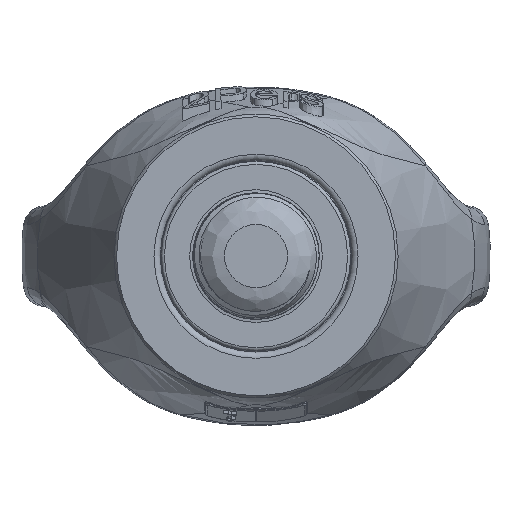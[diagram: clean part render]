
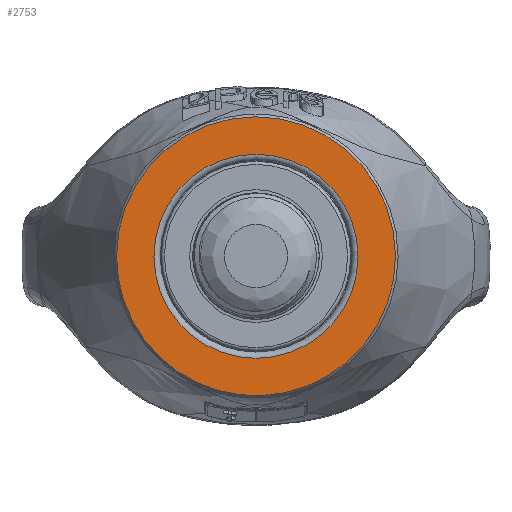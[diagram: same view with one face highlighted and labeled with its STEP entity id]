
A CAD part, front view. The second image highlights one B-rep face of the part: STEP entity #2753.
In plain terms, the highlighted planar face has unit normal (0, -1, 0) as drawn and (0, 0, -1) by its records, which use the part's own axes.
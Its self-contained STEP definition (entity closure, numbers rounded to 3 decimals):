
#2753=ADVANCED_FACE('',(#3688,#3689),#3297,.T.);
#3297=PLANE('',#19331);
#3373=CIRCLE('',#18907,22.072);
#3454=CIRCLE('',#19330,16.15);
#3688=FACE_BOUND('',#4743,.T.);
#3689=FACE_BOUND('',#4744,.T.);
#4743=EDGE_LOOP('',(#11335));
#4744=EDGE_LOOP('',(#11336));
#11335=ORIENTED_EDGE('',*,*,#15898,.T.);
#11336=ORIENTED_EDGE('',*,*,#14115,.F.);
#12198=VERTEX_POINT('',#27957);
#13366=VERTEX_POINT('',#38488);
#14115=EDGE_CURVE('',#12198,#12198,#3373,.T.);
#15898=EDGE_CURVE('',#13366,#13366,#3454,.T.);
#18907=AXIS2_PLACEMENT_3D('',#27956,#20291,#20292);
#19330=AXIS2_PLACEMENT_3D('',#38487,#22228,#22229);
#19331=AXIS2_PLACEMENT_3D('',#38489,#22230,#22231);
#20291=DIRECTION('',(0.,0.,1.));
#20292=DIRECTION('',(-1.,0.,0.));
#22228=DIRECTION('',(0.,0.,1.));
#22229=DIRECTION('',(-1.,0.,0.));
#22230=DIRECTION('',(0.,0.,-1.));
#22231=DIRECTION('',(-1.,0.,0.));
#27956=CARTESIAN_POINT('',(0.,0.,12.));
#27957=CARTESIAN_POINT('',(-22.072,0.,12.));
#38487=CARTESIAN_POINT('',(0.,0.,12.));
#38488=CARTESIAN_POINT('',(-16.15,0.,12.));
#38489=CARTESIAN_POINT('',(15.15,0.,12.));
